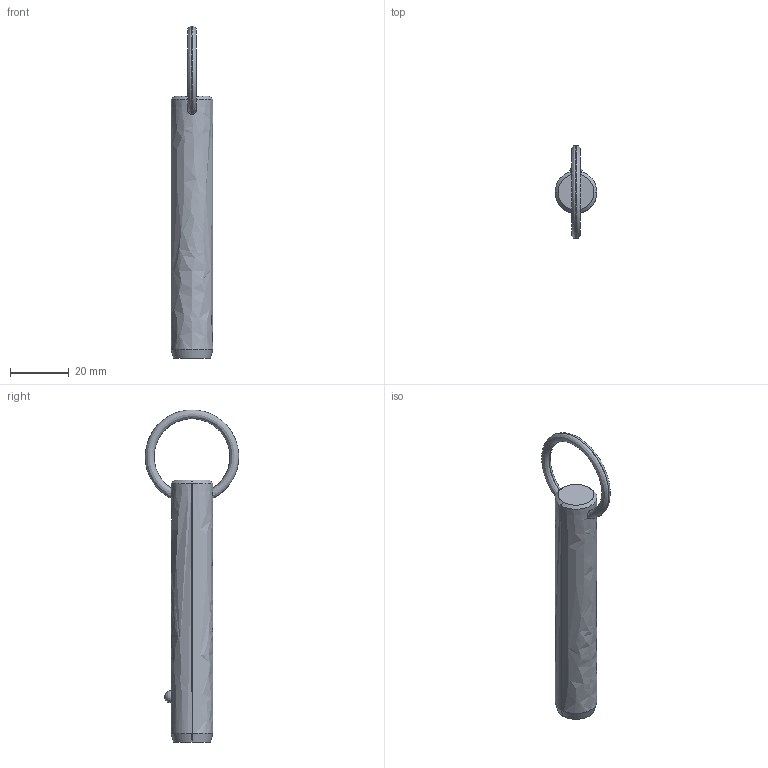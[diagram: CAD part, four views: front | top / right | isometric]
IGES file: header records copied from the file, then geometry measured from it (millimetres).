
Start section: SolidWorks IGES file using analytic representation for surfaces
Global section: file name: C:\Users\liam_\OneDrive\Documents\WORK\Work for WixRoyd\Job Files\J-00019 - Matt Davis CAD Checking\04. CAD Drawings\automotion20190605\P1250.2_v2\P1250.2_v2_20190729_IGES\P1250.056-250.igs; native system: SolidWorks 2017; preprocessor: SolidWorks 2017; author: liam_; date: 190729.231831; units: millimetre
Bounding box: 14.2 x 31.66 x 112.58 mm (x, y, z)
Surface area: 4927.3 mm2 (no closed solid volume)
Topology: 0 solids, 0 shells, 12 faces, 285 edges, 283 vertices
Faces by surface type: revolution 8, bspline 4
